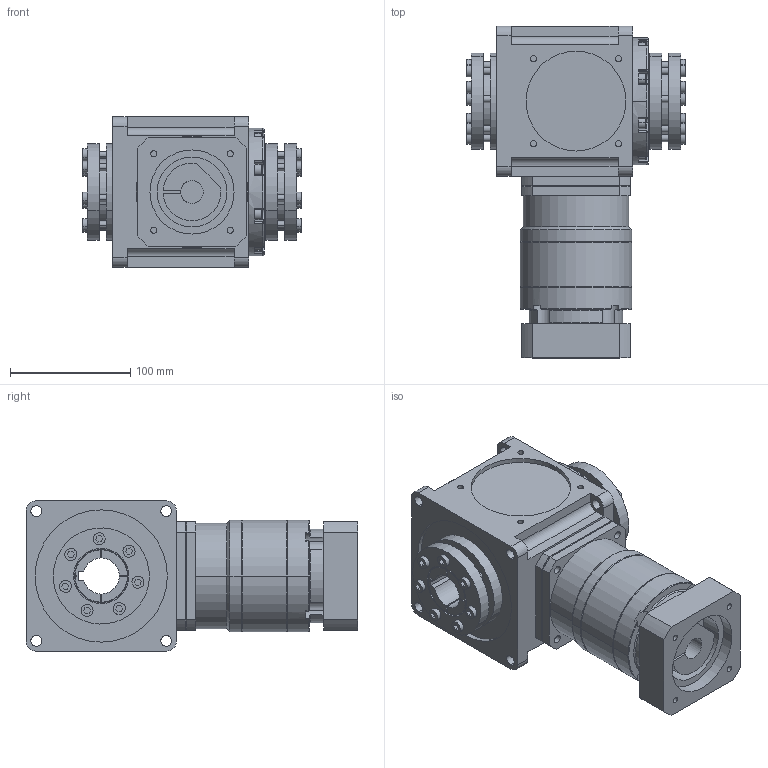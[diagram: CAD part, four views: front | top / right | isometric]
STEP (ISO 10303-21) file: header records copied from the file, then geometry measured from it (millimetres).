
FILE_DESCRIPTION (( 'STEP AP214' ), '1' );
FILE_NAME ('CCW125A-L2(24-200)-2HP-K 19-70-90-M6.STEP', '2025-05-23T06:48:35', ( '微软用户' ), ( '微软中国' ), 'SwSTEP 2.0', 'SolidWorks 2024', '' );
FILE_SCHEMA (( 'AUTOMOTIVE_DESIGN' ));
Length unit declared in the file: millimetre
Products named in the file (4): VRB-090-L2-S2-P1 19-70-90-M6; CCW125A-002-2HP-K箱体; CCW125A-L2(24-200)-2HP-K 19-70-90-M6; 外紧固型胀紧套[44-80]_EDO-44-80
Assembly tree (4 placements, depth 2):
  CCW125A-L2(24-200)-2HP-K 19-70-90-M6
    CCW125A-002-2HP-K箱体
    外紧固型胀紧套[44-80]_EDO-44-80  x2
    VRB-090-L2-S2-P1 19-70-90-M6
Bounding box: 182 x 276 x 125 mm (x, y, z)
Volume: 2806262.4 mm3; surface area: 264412 mm2
Topology: 4 solids, 4 shells, 795 faces, 1931 edges, 1227 vertices
Faces by surface type: plane 353, cylinder 320, torus 57, cone 49, sphere 16
Entity records: 20131 total; most frequent: CARTESIAN_POINT 3670, DIRECTION 3648, ORIENTED_EDGE 3250, EDGE_CURVE 1625, AXIS2_PLACEMENT_3D 1411, VERTEX_POINT 1035, LINE 826, VECTOR 826
